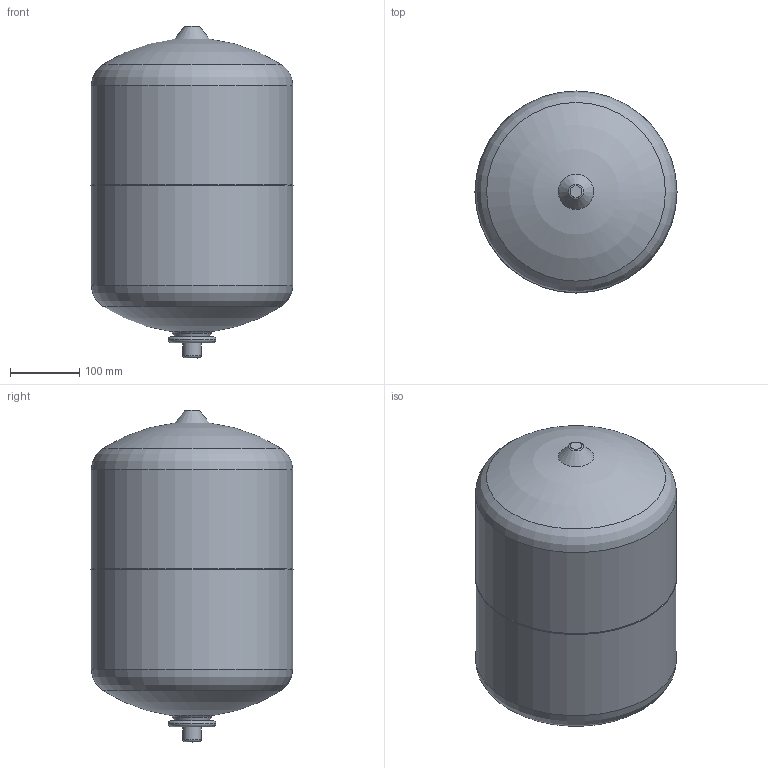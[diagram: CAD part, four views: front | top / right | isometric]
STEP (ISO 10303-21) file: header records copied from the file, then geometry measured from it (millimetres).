
FILE_DESCRIPTION(('STEP AP203'), '1');
FILE_NAME('306518.003-VT.A.R.050025 Áàê ìåìáðàí. 25 ë', '2024-08-19T12:13:09', ('IT'), ('VESTA'), 'C3D Converter', 'C3D Toolkit', '');
FILE_SCHEMA(('CONFIG_CONTROL_DESIGN'));
Length unit declared in the file: millimetre
Bounding box: 290.8 x 290.8 x 477.78 mm (x, y, z)
Volume: 24820571.4 mm3; surface area: 447463.8 mm2
Topology: 1 solids, 1 shells, 35 faces, 97 edges, 68 vertices
Faces by surface type: torus 16, cylinder 8, plane 6, cone 3, sphere 2
Full cylindrical faces by diameter (mm): 16 x1, 21.5 x1, 26.441 x1, 55.9 x1, 69 x1, 290 x2, 290.8 x1
Entity records: 1065 total; most frequent: DIRECTION 208, CARTESIAN_POINT 172, ORIENTED_EDGE 136, AXIS2_PLACEMENT_3D 104, FACE_BOUND 68, EDGE_LOOP 68, EDGE_CURVE 68, VERTEX_POINT 68
